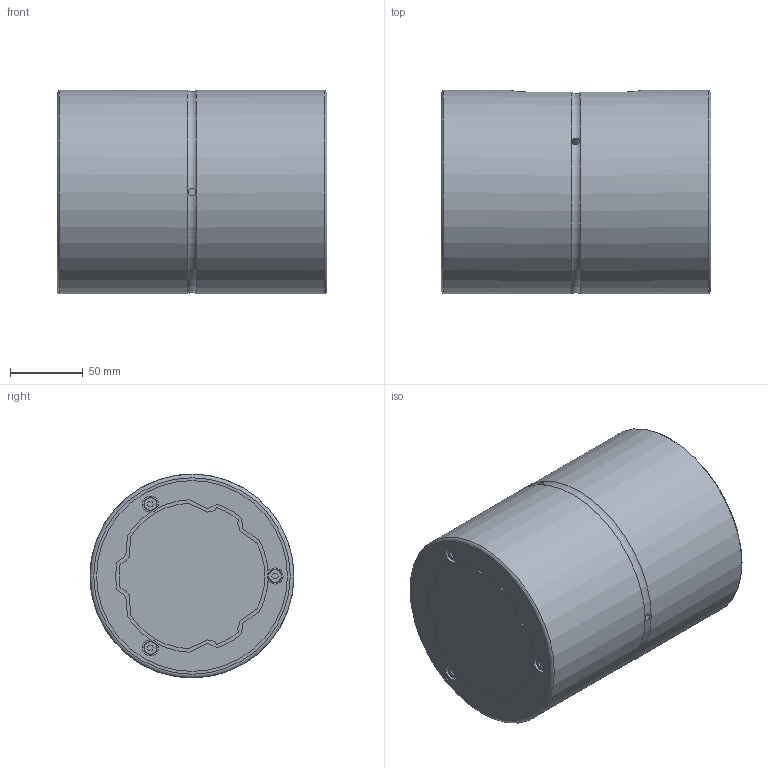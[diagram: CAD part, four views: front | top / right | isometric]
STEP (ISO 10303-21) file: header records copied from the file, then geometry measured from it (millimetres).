
FILE_DESCRIPTION(/* description */ ('STEP AP203'),/* implementation_level */ '2;1');
FILE_NAME(/* name */ 'SLS100L1185(00)',/* time_stamp */ '2024-05-23T11:47:43+02:00',/* author */ ('License CC BY-ND 4.0'),/* organization */ ('CADENAS'),/* preprocessor_version */ 'ST-DEVELOPER v19.3',/* originating_system */ 'PARTsolutions',/* authorisation */ ' ');
FILE_SCHEMA (('CONFIG_CONTROL_DESIGN'));
Length unit declared in the file: millimetre
Products named in the file (3): SLS100L1185(00); 100(L185); 100L cylinder
Assembly tree (2 placements, depth 2):
  SLS100L1185(00)
    100(L185)
    100L cylinder
Bounding box: 185 x 140 x 140 mm (x, y, z)
Volume: 2821310.5 mm3; surface area: 235564.3 mm2
Topology: 2 solids, 2 shells, 248 faces, 670 edges, 445 vertices
Faces by surface type: plane 140, cylinder 99, torus 9
Full cylindrical faces by diameter (mm): 5 x3, 9 x6, 11 x6, 131 x2, 140 x2
Entity records: 7729 total; most frequent: CARTESIAN_POINT 1394, DIRECTION 1334, ORIENTED_EDGE 1264, EDGE_CURVE 632, AXIS2_PLACEMENT_3D 458, VERTEX_POINT 434, LINE 418, VECTOR 418
